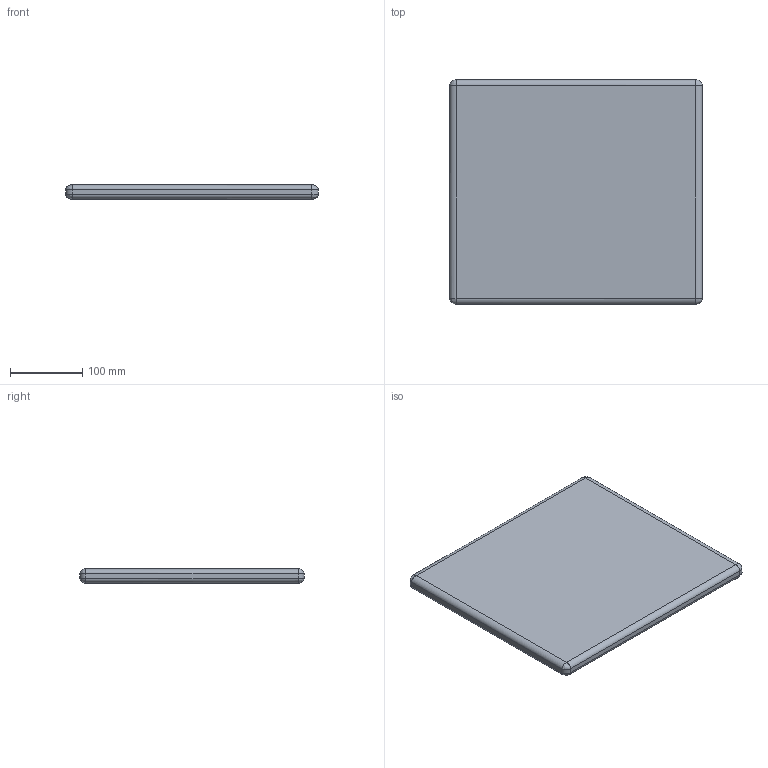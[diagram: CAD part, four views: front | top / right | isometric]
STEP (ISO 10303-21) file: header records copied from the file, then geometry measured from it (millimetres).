
FILE_DESCRIPTION(/* description */ (''),/* implementation_level */ '2;1');
FILE_NAME(/* name */ 'FRAMA_Folding Flat Chair Cushion-3D',/* time_stamp */ '2025-12-02T09:11:35+01:00',/* author */ (''),/* organization */ (''),/* preprocessor_version */ 'ST-DEVELOPER v16.5',/* originating_system */ 'Rhino 7.38',/* authorisation */ '');
FILE_SCHEMA (('CONFIG_CONTROL_DESIGN'));
Length unit declared in the file: millimetre
Products named in the file (1): Document
Bounding box: 349.05 x 310 x 19.89 mm (x, y, z)
Volume: 2119658.8 mm3; surface area: 233764.3 mm2
Topology: 1 solids, 1 shells, 26 faces, 48 edges, 24 vertices
Faces by surface type: bspline 20, plane 6
Entity records: 724 total; most frequent: CARTESIAN_POINT 344, ORIENTED_EDGE 96, EDGE_CURVE 48, ADVANCED_FACE 26, FACE_OUTER_BOUND 26, EDGE_LOOP 26, B_SPLINE_CURVE_WITH_KNOTS 24, VERTEX_POINT 24
